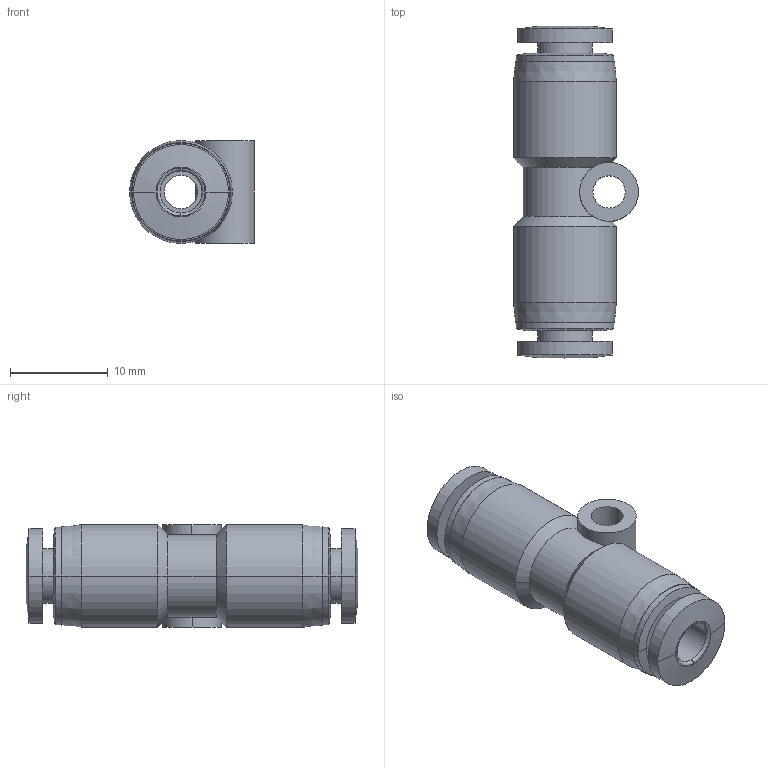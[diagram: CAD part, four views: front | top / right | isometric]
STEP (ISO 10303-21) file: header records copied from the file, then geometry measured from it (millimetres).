
FILE_DESCRIPTION (( 'STEP AP203' ), '1' );
FILE_NAME ('FH04-00.STEP', '2020-05-13T10:57:04', ( '' ), ( '' ), 'SwSTEP 2.0', 'SolidWorks 2019', '' );
FILE_SCHEMA (( 'CONFIG_CONTROL_DESIGN' ));
Length unit declared in the file: millimetre
Products named in the file (1): FH04-00
Bounding box: 12.75 x 33.9 x 10.5 mm (x, y, z)
Volume: 2195 mm3; surface area: 2038.2 mm2
Topology: 1 solids, 1 shells, 62 faces, 138 edges, 86 vertices
Faces by surface type: cylinder 30, cone 16, plane 12, torus 4
Entity records: 2083 total; most frequent: CARTESIAN_POINT 571, DIRECTION 332, ORIENTED_EDGE 276, AXIS2_PLACEMENT_3D 143, EDGE_CURVE 138, VERTEX_POINT 86, CIRCLE 80, EDGE_LOOP 74
